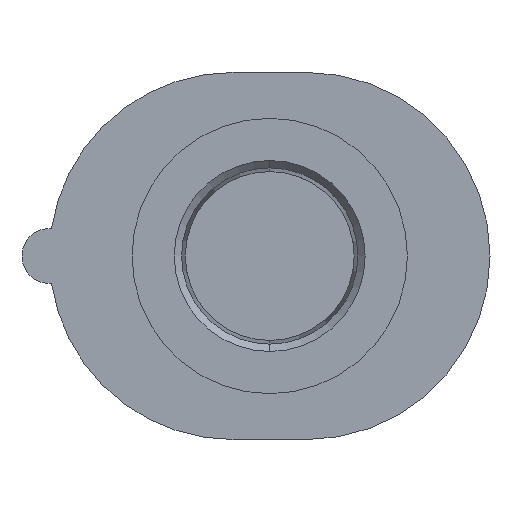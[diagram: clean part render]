
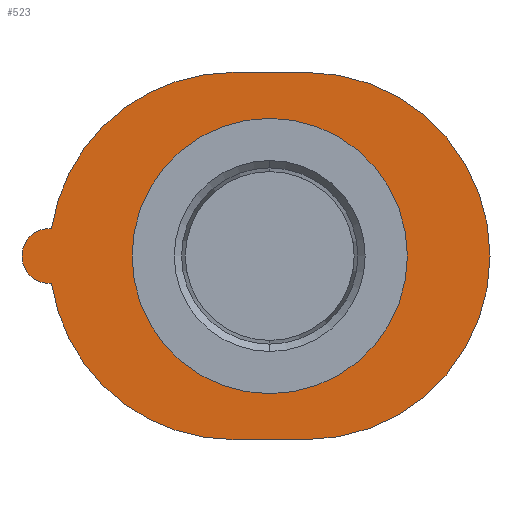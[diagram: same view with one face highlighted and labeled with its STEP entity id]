
A CAD part, front view. The second image highlights one B-rep face of the part: STEP entity #523.
In plain terms, the highlighted planar face has unit normal (0, -1, 0).
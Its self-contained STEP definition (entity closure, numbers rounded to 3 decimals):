
#41=CARTESIAN_POINT('',(-2.,0.,0.));
#42=DIRECTION('',(0.,1.,0.));
#43=DIRECTION('',(0.,0.,-1.));
#44=AXIS2_PLACEMENT_3D('',#41,#42,#43);
#50=CARTESIAN_POINT('',(-12.,0.,0.));
#51=DIRECTION('',(0.,1.,0.));
#52=DIRECTION('',(0.075,0.,-0.997));
#53=AXIS2_PLACEMENT_3D('',#50,#51,#52);
#58=CARTESIAN_POINT('',(-2.,0.,0.));
#59=DIRECTION('',(0.,1.,0.));
#60=DIRECTION('',(-0.989,0.,0.15));
#61=AXIS2_PLACEMENT_3D('',#58,#59,#60);
#66=DIRECTION('',(1.,0.,0.));
#67=VECTOR('',#66,4.);
#68=CARTESIAN_POINT('',(-2.,0.,10.));
#69=LINE('',#68,#67);
#73=CARTESIAN_POINT('',(2.,0.,0.));
#74=DIRECTION('',(0.,1.,0.));
#75=DIRECTION('',(0.,0.,1.));
#76=AXIS2_PLACEMENT_3D('',#73,#74,#75);
#81=DIRECTION('',(-1.,0.,0.));
#82=VECTOR('',#81,4.);
#83=CARTESIAN_POINT('',(2.,0.,-10.));
#84=LINE('',#83,#82);
#88=CARTESIAN_POINT('',(0.,0.,0.));
#89=DIRECTION('',(0.,1.,0.));
#90=DIRECTION('',(0.,0.,-1.));
#91=AXIS2_PLACEMENT_3D('',#88,#89,#90);
#96=CARTESIAN_POINT('',(0.,0.,0.));
#97=DIRECTION('',(0.,1.,0.));
#98=DIRECTION('',(0.,0.,1.));
#99=AXIS2_PLACEMENT_3D('',#96,#97,#98);
#434=CARTESIAN_POINT('',(-2.,0.,-10.));
#435=CARTESIAN_POINT('',(-11.888,0.,-1.496));
#436=VERTEX_POINT('',#434);
#437=VERTEX_POINT('',#435);
#438=CARTESIAN_POINT('',(-11.888,0.,1.496));
#439=VERTEX_POINT('',#438);
#440=CARTESIAN_POINT('',(-2.,0.,10.));
#441=VERTEX_POINT('',#440);
#442=CARTESIAN_POINT('',(2.,0.,10.));
#443=VERTEX_POINT('',#442);
#444=CARTESIAN_POINT('',(2.,0.,-10.));
#445=VERTEX_POINT('',#444);
#462=CARTESIAN_POINT('',(0.,0.,-7.5));
#463=CARTESIAN_POINT('',(0.,0.,7.5));
#464=VERTEX_POINT('',#462);
#465=VERTEX_POINT('',#463);
#498=CARTESIAN_POINT('',(0.,0.,0.));
#499=DIRECTION('',(0.,1.,0.));
#500=DIRECTION('',(0.,0.,-1.));
#501=AXIS2_PLACEMENT_3D('',#498,#499,#500);
#502=PLANE('',#501);
#504=ORIENTED_EDGE('',*,*,#503,.T.);
#506=ORIENTED_EDGE('',*,*,#505,.T.);
#508=ORIENTED_EDGE('',*,*,#507,.T.);
#510=ORIENTED_EDGE('',*,*,#509,.T.);
#512=ORIENTED_EDGE('',*,*,#511,.T.);
#514=ORIENTED_EDGE('',*,*,#513,.T.);
#515=EDGE_LOOP('',(#504,#506,#508,#510,#512,#514));
#516=FACE_OUTER_BOUND('',#515,.F.);
#518=ORIENTED_EDGE('',*,*,#517,.F.);
#520=ORIENTED_EDGE('',*,*,#519,.F.);
#521=EDGE_LOOP('',(#518,#520));
#522=FACE_BOUND('',#521,.F.);
#523=ADVANCED_FACE('',(#516,#522),#502,.F.);
#45=CIRCLE('',#44,10.);
#54=CIRCLE('',#53,1.5);
#62=CIRCLE('',#61,10.);
#77=CIRCLE('',#76,10.);
#92=CIRCLE('',#91,7.5);
#100=CIRCLE('',#99,7.5);
#503=EDGE_CURVE('',#436,#437,#45,.T.);
#505=EDGE_CURVE('',#437,#439,#54,.T.);
#507=EDGE_CURVE('',#439,#441,#62,.T.);
#509=EDGE_CURVE('',#441,#443,#69,.T.);
#511=EDGE_CURVE('',#443,#445,#77,.T.);
#513=EDGE_CURVE('',#445,#436,#84,.T.);
#517=EDGE_CURVE('',#464,#465,#92,.T.);
#519=EDGE_CURVE('',#465,#464,#100,.T.);
